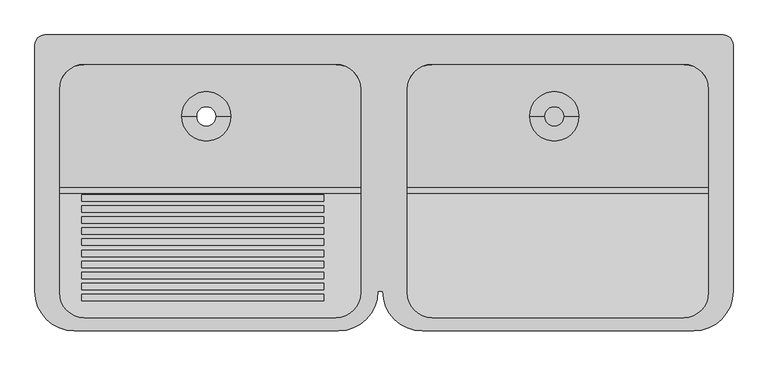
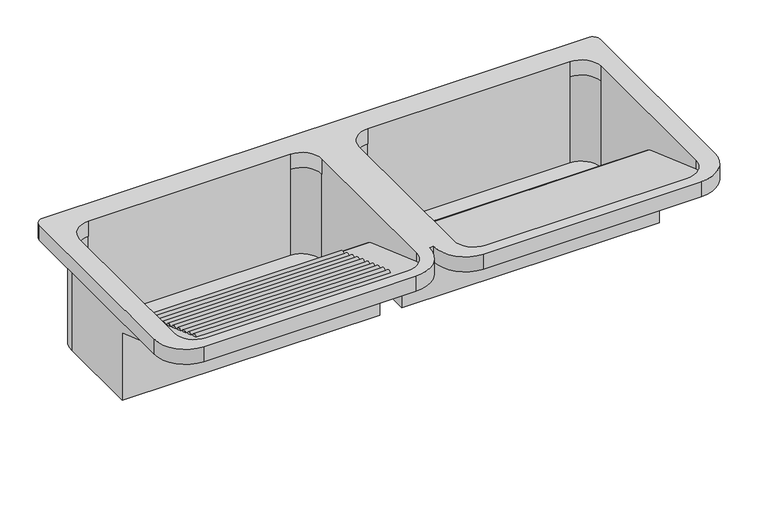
"""IFC4 building model written with IfcOpenShell, lengths in millimetres: proxy geometry, Tanque 2 cubas retangulares : Tanque 2 cubas retangulares."""

from ifc_helpers import new_model, si_unit, point, frame, frame_2d, origin, place, context, project, spatial, polyline, circle_curve, ellipse_curve, trimmed, segment, composite_curve, outline, extrude, source, transform, mapped, element, save
from ifc_brep_helpers import plane_surface, cylinder_surface, revolved_surface, advanced_brep


def generic_models_a6553102(model_context):
    return source(origin(), model_context, "Body", "SolidModel", [
        advanced_brep(
        [(-707.5265008, -20.0, 940.0), (-707.5265008, -520.0, 940.0), (-627.5265008, -600.0, 940.0), (-92.4734992, -600.0, 940.0), (-12.4734992, -520.0, 940.0), (-2.4734992, -520.0, 940.0), (77.5265008, -600.0, 940.0), (627.5265008, -600.0, 940.0), (707.5265008, -520.0, 940.0), (707.5265008, -20.0, 940.0), (687.5265008, 0.0, 940.0), (-687.5265008, 0.0, 940.0), (-657.5265008, -110.0, 940.0), (-607.5265008, -60.0, 940.0), (-97.5265008, -60.0, 940.0), (-47.5265008, -110.0, 940.0), (-47.5265008, -523.0, 940.0), (-97.5265008, -573.0, 940.0), (-607.5265008, -573.0, 940.0), (-657.5265008, -523.0, 940.0), (657.5265008, -110.0, 940.0), (657.5265008, -523.0, 940.0), (607.5265008, -573.0, 940.0), (97.5265008, -573.0, 940.0), (47.5265008, -523.0, 940.0), (47.5265008, -110.0, 940.0), (97.5265008, -60.0, 940.0), (607.5265008, -60.0, 940.0), (-707.5265008, -20.0, 900.0), (-687.5265008, 0.0, 900.0), (687.5265008, 0.0, 900.0), (707.5265008, -20.0, 900.0), (707.5265008, -520.0, 900.0), (627.5265008, -600.0, 900.0), (77.5265008, -600.0, 900.0), (-2.4734992, -520.0, 900.0), (-12.4734992, -520.0, 900.0), (-92.4734992, -600.0, 900.0), (-627.5265008, -600.0, 900.0), (-707.5265008, -520.0, 900.0), (-607.5265008, -573.0, 900.0), (-97.5265008, -573.0, 900.0), (-47.7046441, -527.2169414, 900.0), (-27.5265008, -527.2169414, 900.0), (-27.5265008, -110.0, 900.0), (-97.5265008, -40.0, 900.0), (-607.5265008, -40.0, 900.0), (-677.5265008, -110.0, 900.0), (-677.5265008, -527.2169414, 900.0), (-657.3483575, -527.2169414, 900.0), (97.5265008, -573.0, 900.0), (607.5265008, -573.0, 900.0), (657.3483575, -527.2169414, 900.0), (677.5265008, -527.2169414, 900.0), (677.5265008, -110.0, 900.0), (607.5265008, -40.0, 900.0), (97.5265008, -40.0, 900.0), (27.5265008, -110.0, 900.0), (27.5265008, -527.2169414, 900.0), (47.7046441, -527.2169414, 900.0), (-657.5265008, -110.0, 900.0), (-607.5265008, -60.0, 900.0), (-607.5265008, -60.0, 670.0), (-97.5265008, -60.0, 670.0), (-97.5265008, -60.0, 900.0), (-97.5265008, -573.0, 935.0), (-607.5265008, -573.0, 935.0), (-607.5265008, -573.0, 916.2603695), (-97.5265008, -573.0, 916.2603695), (-657.5265008, -523.0, 917.2419363), (-657.5265008, -321.714464, 845.7531088), (-657.5265008, -310.0, 830.3091491), (-657.5265008, -310.0, 670.0), (-657.5265008, -110.0, 670.0), (-47.5265008, -110.0, 900.0), (-47.5265008, -110.0, 670.0), (-47.5265008, -310.0, 670.0), (-47.5265008, -310.0, 830.3091491), (-47.5265008, -321.714464, 845.7531088), (-47.5265008, -523.0, 917.2419363), (657.5265008, -110.0, 900.0), (657.5265008, -110.0, 670.0), (657.5265008, -310.0, 670.0), (657.5265008, -310.0, 830.3091491), (657.5265008, -321.714464, 845.7531088), (657.5265008, -523.0, 917.2419363), (607.5265008, -573.0, 935.0), (607.5265008, -573.0, 916.2603695), (97.5265008, -573.0, 935.0), (97.5265008, -573.0, 916.2603695), (47.5265008, -523.0, 917.2419363), (47.5265008, -321.714464, 845.7531088), (47.5265008, -310.0, 830.3091491), (47.5265008, -310.0, 670.0), (47.5265008, -110.0, 670.0), (47.5265008, -110.0, 900.0), (97.5265008, -60.0, 900.0), (97.5265008, -60.0, 670.0), (607.5265008, -60.0, 670.0), (607.5265008, -60.0, 900.0), (-607.5265008, -40.0, 650.0), (-97.5265008, -40.0, 650.0), (-27.5265008, -110.0, 650.0), (-27.5265008, -330.0, 650.0), (-677.5265008, -330.0, 650.0), (-677.5265008, -110.0, 650.0), (-384.7814845, -164.9171364, 650.0), (-335.2185155, -164.9171364, 650.0), (-677.5265008, -330.0, 829.9561797), (-27.5265008, -330.0, 829.9561797), (-335.2185155, -164.9171364, 670.0), (-384.7814845, -164.9171364, 670.0), (97.5265008, -40.0, 650.0), (607.5265008, -40.0, 650.0), (677.5265008, -110.0, 650.0), (677.5265008, -330.0, 650.0), (27.5265008, -330.0, 650.0), (27.5265008, -110.0, 650.0), (27.5265008, -330.0, 829.9561797), (677.5265008, -330.0, 829.9561797)],
        [
            (0, 1),
            (1, 2, circle_curve(frame((-627.5265008, -520.0, 940.0), z_axis=(0.0, 0.0, 1.0), x_axis=(1.0, 0.0, 0.0)), 80.0)),
            (2, 3),
            (3, 4, circle_curve(frame((-92.4734992, -520.0, 940.0), z_axis=(0.0, 0.0, 1.0), x_axis=(-1.0, 0.0, 0.0)), 80.0)),
            (4, 5),
            (5, 6, circle_curve(frame((77.5265008, -520.0, 940.0), z_axis=(0.0, 0.0, 1.0), x_axis=(1.0, 0.0, 0.0)), 80.0)),
            (6, 7),
            (7, 8, circle_curve(frame((627.5265008, -520.0, 940.0), z_axis=(0.0, 0.0, 1.0), x_axis=(-1.0, 0.0, 0.0)), 80.0)),
            (8, 9),
            (9, 10, circle_curve(frame((687.5265008, -20.0, 940.0), z_axis=(0.0, 0.0, 1.0), x_axis=(-1.0, 0.0, 0.0)), 20.0)),
            (10, 11),
            (11, 0, circle_curve(frame((-687.5265008, -20.0, 940.0), z_axis=(0.0, 0.0, 1.0), x_axis=(1.0, 0.0, 0.0)), 20.0)),
            (12, 13, circle_curve(frame((-607.5265008, -110.0, 940.0), z_axis=(0.0, 0.0, -1.0), x_axis=(1.0, 0.0, 0.0)), 50.0)),
            (13, 14),
            (14, 15, circle_curve(frame((-97.5265008, -110.0, 940.0), z_axis=(0.0, 0.0, -1.0), x_axis=(1.0, 0.0, 0.0)), 50.0)),
            (15, 16),
            (16, 17, circle_curve(frame((-97.5265008, -523.0, 940.0), z_axis=(0.0, 0.0, -1.0), x_axis=(1.0, 0.0, 0.0)), 50.0)),
            (17, 18),
            (18, 19, circle_curve(frame((-607.5265008, -523.0, 940.0), z_axis=(0.0, 0.0, -1.0), x_axis=(1.0, 0.0, 0.0)), 50.0)),
            (19, 12),
            (20, 21),
            (21, 22, circle_curve(frame((607.5265008, -523.0, 940.0), z_axis=(0.0, 0.0, -1.0), x_axis=(-1.0, 0.0, 0.0)), 50.0)),
            (22, 23),
            (23, 24, circle_curve(frame((97.5265008, -523.0, 940.0), z_axis=(0.0, 0.0, -1.0), x_axis=(-1.0, 0.0, 0.0)), 50.0)),
            (24, 25),
            (25, 26, circle_curve(frame((97.5265008, -110.0, 940.0), z_axis=(0.0, 0.0, -1.0), x_axis=(-1.0, 0.0, 0.0)), 50.0)),
            (26, 27),
            (27, 20, circle_curve(frame((607.5265008, -110.0, 940.0), z_axis=(0.0, 0.0, -1.0), x_axis=(-1.0, 0.0, 0.0)), 50.0)),
            (28, 29, circle_curve(frame((-687.5265008, -20.0, 900.0), z_axis=(0.0, 0.0, -1.0), x_axis=(1.0, 0.0, 0.0)), 20.0)),
            (29, 30),
            (30, 31, circle_curve(frame((687.5265008, -20.0, 900.0), z_axis=(0.0, 0.0, -1.0), x_axis=(-1.0, 0.0, 0.0)), 20.0)),
            (31, 32),
            (32, 33, circle_curve(frame((627.5265008, -520.0, 900.0), z_axis=(0.0, 0.0, -1.0), x_axis=(-1.0, 0.0, 0.0)), 80.0)),
            (33, 34),
            (34, 35, circle_curve(frame((77.5265008, -520.0, 900.0), z_axis=(0.0, 0.0, -1.0), x_axis=(1.0, 0.0, 0.0)), 80.0)),
            (35, 36),
            (36, 37, circle_curve(frame((-92.4734992, -520.0, 900.0), z_axis=(0.0, 0.0, -1.0), x_axis=(-1.0, 0.0, 0.0)), 80.0)),
            (37, 38),
            (38, 39, circle_curve(frame((-627.5265008, -520.0, 900.0), z_axis=(0.0, 0.0, -1.0), x_axis=(1.0, 0.0, 0.0)), 80.0)),
            (39, 28),
            (40, 41),
            (41, 42, circle_curve(frame((-97.5265008, -523.0, 900.0), z_axis=(0.0, 0.0, 1.0), x_axis=(1.0, 0.0, 0.0)), 50.0)),
            (42, 43),
            (43, 44),
            (44, 45, circle_curve(frame((-97.5265008, -110.0, 900.0), z_axis=(0.0, 0.0, 1.0), x_axis=(1.0, 0.0, 0.0)), 70.0)),
            (45, 46),
            (46, 47, circle_curve(frame((-607.5265008, -110.0, 900.0), z_axis=(0.0, 0.0, 1.0), x_axis=(1.0, 0.0, 0.0)), 70.0)),
            (47, 48),
            (48, 49),
            (49, 40, circle_curve(frame((-607.5265008, -523.0, 900.0), z_axis=(0.0, 0.0, 1.0), x_axis=(1.0, 0.0, 0.0)), 50.0)),
            (50, 51),
            (51, 52, circle_curve(frame((607.5265008, -523.0, 900.0), z_axis=(0.0, 0.0, 1.0), x_axis=(-1.0, 0.0, 0.0)), 50.0)),
            (52, 53),
            (53, 54),
            (54, 55, circle_curve(frame((607.5265008, -110.0, 900.0), z_axis=(0.0, 0.0, 1.0), x_axis=(1.0, 0.0, 0.0)), 70.0)),
            (55, 56),
            (56, 57, circle_curve(frame((97.5265008, -110.0, 900.0), z_axis=(0.0, 0.0, 1.0), x_axis=(1.0, 0.0, 0.0)), 70.0)),
            (57, 58),
            (58, 59),
            (59, 50, circle_curve(frame((97.5265008, -523.0, 900.0), z_axis=(0.0, 0.0, 1.0), x_axis=(-1.0, 0.0, 0.0)), 50.0)),
            (0, 28),
            (39, 1),
            (38, 2),
            (37, 3),
            (10, 30),
            (29, 11),
            (12, 60),
            (60, 61, circle_curve(frame((-607.5265008, -110.0, 900.0), z_axis=(0.0, 0.0, -1.0), x_axis=(1.0, 0.0, 0.0)), 50.0)),
            (61, 13),
            (61, 62),
            (62, 63),
            (63, 64),
            (64, 14),
            (17, 65),
            (65, 66),
            (66, 18),
            (40, 67),
            (67, 68),
            (68, 41),
            (66, 69, ellipse_curve(frame((-607.5265008, -523.0, 917.2419363), z_axis=(0.0, -0.33467980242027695, -0.9423319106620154), x_axis=(0.0, 0.9423319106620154, -0.3346798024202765)), 53.0598608, 50.0)),
            (69, 19),
            (49, 67, ellipse_curve(frame((-607.5265008, -523.0, 898.5023057), z_axis=(0.0, 0.3346798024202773, 0.9423319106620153), x_axis=(0.0, 0.9423319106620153, -0.33467980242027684)), 53.0598608, 50.0)),
            (69, 70),
            (70, 71, circle_curve(frame((-657.5265008, -329.2320935, 827.8861055), z_axis=(-1.0, 0.0, 0.0), x_axis=(0.0, 1.0, 0.0)), 19.3841316)),
            (71, 72),
            (72, 73),
            (73, 60),
            (64, 74, circle_curve(frame((-97.5265008, -110.0, 900.0), z_axis=(0.0, 0.0, -1.0), x_axis=(1.0, 0.0, 0.0)), 50.0)),
            (74, 15),
            (74, 75),
            (75, 76),
            (76, 77),
            (77, 78, circle_curve(frame((-47.5265008, -329.2320935, 827.8861055), z_axis=(1.0, 0.0, 0.0), x_axis=(0.0, 1.0, 0.0)), 19.3841316)),
            (78, 79),
            (79, 16),
            (79, 65, ellipse_curve(frame((-97.5265008, -523.0, 917.2419363), z_axis=(0.0, -0.33467980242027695, -0.9423319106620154), x_axis=(0.0, 0.9423319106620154, -0.3346798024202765)), 53.0598608, 50.0)),
            (68, 42, ellipse_curve(frame((-97.5265008, -523.0, 898.5023057), z_axis=(0.0, 0.3346798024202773, 0.9423319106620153), x_axis=(0.0, 0.9423319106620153, -0.33467980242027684)), 53.0598608, 50.0)),
            (36, 4),
            (35, 5),
            (34, 6),
            (33, 7),
            (32, 8),
            (31, 9),
            (20, 80),
            (80, 81),
            (81, 82),
            (82, 83),
            (83, 84, circle_curve(frame((657.5265008, -329.2320935, 827.8861055), z_axis=(1.0, 0.0, 0.0), x_axis=(0.0, 1.0, 0.0)), 19.3841316)),
            (84, 85),
            (85, 21),
            (85, 86, ellipse_curve(frame((607.5265008, -523.0, 917.2419363), z_axis=(0.0, -0.33467980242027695, -0.9423319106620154), x_axis=(0.0, 0.9423319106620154, -0.3346798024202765)), 53.0598608, 50.0)),
            (86, 22),
            (51, 87),
            (87, 52, ellipse_curve(frame((607.5265008, -523.0, 898.5023057), z_axis=(0.0, 0.3346798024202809, 0.9423319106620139), x_axis=(0.0, 0.942331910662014, -0.3346798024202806)), 53.0598608, 50.0)),
            (86, 88),
            (88, 23),
            (50, 89),
            (89, 87),
            (88, 90, ellipse_curve(frame((97.5265008, -523.0, 917.2419363), z_axis=(0.0, -0.33467980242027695, -0.9423319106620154), x_axis=(0.0, 0.9423319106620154, -0.3346798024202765)), 53.0598608, 50.0)),
            (90, 24),
            (59, 89, ellipse_curve(frame((97.5265008, -523.0, 898.5023057), z_axis=(0.0, 0.3346798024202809, 0.9423319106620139), x_axis=(0.0, 0.942331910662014, -0.3346798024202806)), 53.0598608, 50.0)),
            (90, 91),
            (91, 92, circle_curve(frame((47.5265008, -329.2320935, 827.8861055), z_axis=(-1.0, 0.0, 0.0), x_axis=(0.0, 1.0, 0.0)), 19.3841316)),
            (92, 93),
            (93, 94),
            (94, 95),
            (95, 25),
            (95, 96, circle_curve(frame((97.5265008, -110.0, 900.0), z_axis=(0.0, 0.0, -1.0), x_axis=(-1.0, 0.0, 0.0)), 50.0)),
            (96, 26),
            (96, 97),
            (97, 98),
            (98, 99),
            (99, 27),
            (99, 80, circle_curve(frame((607.5265008, -110.0, 900.0), z_axis=(0.0, 0.0, -1.0), x_axis=(-1.0, 0.0, 0.0)), 50.0)),
            (100, 101),
            (101, 102, circle_curve(frame((-97.5265008, -110.0, 650.0), z_axis=(0.0, 0.0, -1.0), x_axis=(1.0, 0.0, 0.0)), 70.0)),
            (102, 103),
            (103, 104),
            (104, 105),
            (105, 100, circle_curve(frame((-607.5265008, -110.0, 650.0), z_axis=(0.0, 0.0, -1.0), x_axis=(1.0, 0.0, 0.0)), 70.0)),
            (106, 107, circle_curve(frame((-360.0, -164.9171364, 650.0), z_axis=(0.0, 0.0, 1.0), x_axis=(1.0, 0.0, 0.0)), 24.7814845)),
            (107, 106, circle_curve(frame((-360.0, -164.9171364, 650.0), z_axis=(0.0, 0.0, 1.0), x_axis=(1.0, 0.0, 0.0)), 24.7814845)),
            (105, 47),
            (46, 100),
            (104, 108),
            (108, 48),
            (103, 109),
            (109, 108),
            (45, 101),
            (102, 44),
            (43, 109),
            (62, 73, circle_curve(frame((-607.5265008, -110.0, 670.0), z_axis=(0.0, 0.0, 1.0), x_axis=(1.0, 0.0, 0.0)), 50.0)),
            (72, 76),
            (75, 63, circle_curve(frame((-97.5265008, -110.0, 670.0), z_axis=(0.0, 0.0, 1.0), x_axis=(1.0, 0.0, 0.0)), 50.0)),
            (110, 111, circle_curve(frame((-360.0, -164.9171364, 670.0), z_axis=(0.0, 0.0, -1.0), x_axis=(1.0, 0.0, 0.0)), 24.7814845)),
            (111, 110, circle_curve(frame((-360.0, -164.9171364, 670.0), z_axis=(0.0, 0.0, -1.0), x_axis=(1.0, 0.0, 0.0)), 24.7814845)),
            (78, 70),
            (71, 77),
            (106, 111),
            (110, 107),
            (84, 91),
            (92, 83),
            (82, 93),
            (112, 113),
            (113, 114, circle_curve(frame((607.5265008, -110.0, 650.0), z_axis=(0.0, 0.0, -1.0), x_axis=(1.0, 0.0, 0.0)), 70.0)),
            (114, 115),
            (115, 116),
            (116, 117),
            (117, 112, circle_curve(frame((97.5265008, -110.0, 650.0), z_axis=(0.0, 0.0, -1.0), x_axis=(1.0, 0.0, 0.0)), 70.0)),
            (117, 57),
            (56, 112),
            (116, 118),
            (118, 58),
            (115, 119),
            (119, 118),
            (55, 113),
            (114, 54),
            (53, 119),
            (97, 94, circle_curve(frame((97.5265008, -110.0, 670.0), z_axis=(0.0, 0.0, 1.0), x_axis=(1.0, 0.0, 0.0)), 50.0)),
            (81, 98, circle_curve(frame((607.5265008, -110.0, 670.0), z_axis=(0.0, 0.0, 1.0), x_axis=(1.0, 0.0, 0.0)), 50.0)),
        ],
        [
            plane_surface(frame((-707.5265008, -20.0, 940.0), z_axis=(0.0, 0.0, 1.0), x_axis=(0.0, -1.0, 0.0))),
            plane_surface(frame((-707.5265008, -20.0, 900.0), z_axis=(0.0, 0.0, -1.0), x_axis=(0.0, 1.0, 0.0))),
            plane_surface(frame((-707.5265008, -20.0, 940.0), z_axis=(-1.0, 0.0, 0.0), x_axis=(0.0, 0.0, -1.0))),
            cylinder_surface(frame((-627.5265008, -520.0, 900.0), z_axis=(0.0, 0.0, 1.0), x_axis=(1.0, 0.0, 0.0)), 80.0),
            plane_surface(frame((-627.5265008, -600.0, 940.0), z_axis=(0.0, -1.0, 0.0), x_axis=(0.0, 0.0, -1.0))),
            plane_surface(frame((687.5265008, 0.0, 940.0), z_axis=(0.0, 1.0, 0.0), x_axis=(0.0, 0.0, -1.0))),
            cylinder_surface(frame((-687.5265008, -20.0, 900.0), z_axis=(0.0, 0.0, 1.0), x_axis=(1.0, 0.0, 0.0)), 20.0),
            revolved_surface(polyline([(-557.5265008, -110.0, 900.0), (-557.5265008, -110.0, 940.0)]), (-607.5265008, -110.0, 0.0), (0.0, 0.0, -1.0)),
            plane_surface(frame((-607.5265008, -60.0, 940.0), z_axis=(0.0, -1.0, 0.0), x_axis=(0.0, 0.0, -1.0))),
            plane_surface(frame((-97.5265008, -573.0, 940.0), z_axis=(0.0, 1.0, 0.0), x_axis=(0.0, 0.0, -1.0))),
            revolved_surface(polyline([(-557.5265008, -523.0, 899.4838725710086), (-557.5265008, -523.0, 940.0)]), (-607.5265008, -523.0, 0.0), (0.0, 0.0, -1.0)),
            revolved_surface(polyline([(-557.5265008, -523.0, 880.7442419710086), (-557.5265008, -523.0, 916.2603695)]), (-607.5265008, -523.0, 0.0), (0.0, 0.0, -1.0)),
            plane_surface(frame((-657.5265008, -523.0, 940.0), z_axis=(1.0, 0.0, 0.0), x_axis=(0.0, 0.0, -1.0))),
            revolved_surface(polyline([(-47.526500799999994, -110.0, 900.0), (-47.526500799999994, -110.0, 940.0)]), (-97.5265008, -110.0, 0.0), (0.0, 0.0, -1.0)),
            plane_surface(frame((-47.5265008, -110.0, 940.0), z_axis=(-1.0, 0.0, 0.0), x_axis=(0.0, 0.0, -1.0))),
            revolved_surface(polyline([(-47.526500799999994, -523.0, 899.4838725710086), (-47.526500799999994, -523.0, 940.0)]), (-97.5265008, -523.0, 0.0), (0.0, 0.0, -1.0)),
            revolved_surface(polyline([(-47.526500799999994, -523.0, 880.7442419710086), (-47.526500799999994, -523.0, 916.2603695)]), (-97.5265008, -523.0, 0.0), (0.0, 0.0, -1.0)),
            cylinder_surface(frame((-92.4734992, -520.0, 900.0), z_axis=(0.0, 0.0, 1.0), x_axis=(-1.0, 0.0, 0.0)), 80.0),
            plane_surface(frame((-12.4734992, -520.0, 940.0), z_axis=(0.0, -1.0, 0.0), x_axis=(0.0, 0.0, -1.0))),
            cylinder_surface(frame((77.5265008, -520.0, 900.0), z_axis=(0.0, 0.0, 1.0), x_axis=(1.0, 0.0, 0.0)), 80.0),
            plane_surface(frame((77.5265008, -600.0, 940.0), z_axis=(0.0, -1.0, 0.0), x_axis=(0.0, 0.0, -1.0))),
            cylinder_surface(frame((627.5265008, -520.0, 900.0), z_axis=(0.0, 0.0, 1.0), x_axis=(-1.0, 0.0, 0.0)), 80.0),
            plane_surface(frame((707.5265008, -520.0, 940.0), z_axis=(1.0, 0.0, 0.0), x_axis=(0.0, 0.0, -1.0))),
            cylinder_surface(frame((687.5265008, -20.0, 900.0), z_axis=(0.0, 0.0, 1.0), x_axis=(-1.0, 0.0, 0.0)), 20.0),
            plane_surface(frame((657.5265008, -110.0, 940.0), z_axis=(-1.0, 0.0, 0.0), x_axis=(0.0, 0.0, -1.0))),
            revolved_surface(polyline([(557.5265008, -523.0, 899.4838725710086), (557.5265008, -523.0, 940.0)]), (607.5265008, -523.0, 0.0), (0.0, 0.0, -1.0)),
            revolved_surface(polyline([(557.5265008, -523.0, 880.7442419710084), (557.5265008, -523.0, 916.2603695)]), (607.5265008, -523.0, 0.0), (0.0, 0.0, -1.0)),
            plane_surface(frame((607.5265008, -573.0, 940.0), z_axis=(0.0, 1.0, 0.0), x_axis=(0.0, 0.0, -1.0))),
            revolved_surface(polyline([(47.526500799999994, -523.0, 899.4838725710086), (47.526500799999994, -523.0, 940.0)]), (97.5265008, -523.0, 0.0), (0.0, 0.0, -1.0)),
            revolved_surface(polyline([(47.526500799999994, -523.0, 880.7442419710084), (47.526500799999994, -523.0, 916.2603695)]), (97.5265008, -523.0, 0.0), (0.0, 0.0, -1.0)),
            plane_surface(frame((47.5265008, -523.0, 940.0), z_axis=(1.0, 0.0, 0.0), x_axis=(0.0, 0.0, -1.0))),
            revolved_surface(polyline([(47.526500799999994, -110.0, 900.0), (47.526500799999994, -110.0, 940.0)]), (97.5265008, -110.0, 0.0), (0.0, 0.0, -1.0)),
            plane_surface(frame((97.5265008, -60.0, 940.0), z_axis=(0.0, -1.0, 0.0), x_axis=(0.0, 0.0, -1.0))),
            revolved_surface(polyline([(557.5265008, -110.0, 900.0), (557.5265008, -110.0, 940.0)]), (607.5265008, -110.0, 0.0), (0.0, 0.0, -1.0)),
            plane_surface(frame((-537.5265008, -110.0, 650.0), z_axis=(0.0, 0.0, -1.0), x_axis=(0.0, -1.0, 0.0))),
            cylinder_surface(frame((-607.5265008, -110.0, 650.0), z_axis=(0.0, 0.0, 1.0), x_axis=(1.0, 0.0, 0.0)), 70.0),
            plane_surface(frame((-677.5265008, -110.0, 900.0), z_axis=(-1.0, 0.0, 0.0), x_axis=(0.0, 0.0, -1.0))),
            plane_surface(frame((-677.5265008, -330.0, 900.0), z_axis=(0.0, -1.0, 0.0), x_axis=(0.0, 0.0, -1.0))),
            plane_surface(frame((-97.5265008, -40.0, 900.0), z_axis=(0.0, 1.0, 0.0), x_axis=(0.0, 0.0, -1.0))),
            plane_surface(frame((-27.5265008, -330.0, 900.0), z_axis=(1.0, 0.0, 0.0), x_axis=(0.0, 0.0, -1.0))),
            cylinder_surface(frame((-97.5265008, -110.0, 650.0), z_axis=(0.0, 0.0, 1.0), x_axis=(1.0, 0.0, 0.0)), 70.0),
            plane_surface(frame((-557.5265008, -110.0, 670.0), z_axis=(0.0, 0.0, 1.0), x_axis=(0.0, -1.0, 0.0))),
            revolved_surface(polyline([(-557.5265008, -110.0, 900.0), (-557.5265008, -110.0, 670.0)]), (-607.5265008, -110.0, 670.0), (0.0, 0.0, 1.0)),
            revolved_surface(polyline([(-47.526500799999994, -110.0, 900.0), (-47.526500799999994, -110.0, 670.0)]), (-97.5265008, -110.0, 670.0), (0.0, 0.0, 1.0)),
            plane_surface(frame((-47.5265008, -573.0, 916.2603695), z_axis=(0.0, -0.3346798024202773, -0.9423319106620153), x_axis=(-1.0, 0.0, 0.0))),
            plane_surface(frame((-47.5265008, -321.714464, 845.7531088), z_axis=(0.0, 0.33467980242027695, 0.9423319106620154), x_axis=(-1.0, 0.0, 0.0))),
            plane_surface(frame((-47.5265008, -310.0, 670.0), z_axis=(0.0, 1.0, 0.0), x_axis=(-1.0, 0.0, 0.0))),
            cylinder_surface(frame((-657.5265008, -329.2320935, 827.8861055), z_axis=(1.0, 0.0, 0.0), x_axis=(0.0, 1.0, 0.0)), 19.3841316),
            revolved_surface(polyline([(-335.2185155, -164.9171364, 670.0), (-335.2185155, -164.9171364, 650.0)]), (-360.0, -164.9171364, 650.0), (0.0, 0.0, 1.0)),
            plane_surface(frame((657.5265008, -321.714464, 845.7531088), z_axis=(0.0, 0.33467980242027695, 0.9423319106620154), x_axis=(-1.0, 0.0, 0.0))),
            plane_surface(frame((657.5265008, -310.0, 670.0), z_axis=(0.0, 1.0, 0.0), x_axis=(-1.0, 0.0, 0.0))),
            cylinder_surface(frame((47.5265008, -329.2320935, 827.8861055), z_axis=(1.0, 0.0, 0.0), x_axis=(0.0, 1.0, 0.0)), 19.3841316),
            plane_surface(frame((167.5265008, -110.0, 650.0), z_axis=(0.0, 0.0, -1.0), x_axis=(0.0, -1.0, 0.0))),
            cylinder_surface(frame((97.5265008, -110.0, 650.0), z_axis=(0.0, 0.0, 1.0), x_axis=(1.0, 0.0, 0.0)), 70.0),
            plane_surface(frame((27.5265008, -110.0, 900.0), z_axis=(-1.0, 0.0, 0.0), x_axis=(0.0, 0.0, -1.0))),
            plane_surface(frame((27.5265008, -330.0, 900.0), z_axis=(0.0, -1.0, 0.0), x_axis=(0.0, 0.0, -1.0))),
            plane_surface(frame((607.5265008, -40.0, 900.0), z_axis=(0.0, 1.0, 0.0), x_axis=(0.0, 0.0, -1.0))),
            plane_surface(frame((677.5265008, -330.0, 900.0), z_axis=(1.0, 0.0, 0.0), x_axis=(0.0, 0.0, -1.0))),
            cylinder_surface(frame((607.5265008, -110.0, 650.0), z_axis=(0.0, 0.0, 1.0), x_axis=(1.0, 0.0, 0.0)), 70.0),
            plane_surface(frame((47.5265008, -527.2169414, 900.0), z_axis=(0.0, -0.3346798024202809, -0.9423319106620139), x_axis=(-1.0, 0.0, 0.0))),
            plane_surface(frame((147.5265008, -110.0, 670.0), z_axis=(0.0, 0.0, 1.0), x_axis=(0.0, -1.0, 0.0))),
            revolved_surface(polyline([(147.5265008, -110.0, 900.0), (147.5265008, -110.0, 670.0)]), (97.5265008, -110.0, 670.0), (0.0, 0.0, 1.0)),
            revolved_surface(polyline([(657.5265008, -110.0, 900.0), (657.5265008, -110.0, 670.0)]), (607.5265008, -110.0, 670.0), (0.0, 0.0, 1.0)),
        ],
        [
            (0, [[1, 2, 3, 4, 5, 6, 7, 8, 9, 10, 11, 12], [13, 14, 15, 16, 17, 18, 19, 20], [21, 22, 23, 24, 25, 26, 27, 28]]),
            (1, [[29, 30, 31, 32, 33, 34, 35, 36, 37, 38, 39, 40], [41, 42, 43, 44, 45, 46, 47, 48, 49, 50], [51, 52, 53, 54, 55, 56, 57, 58, 59, 60]]),
            (2, [[-1, 61, -40, 62]]),
            (3, [[-2, -62, -39, 63]]),
            (4, [[-3, -63, -38, 64]]),
            (5, [[-11, 65, -30, 66]]),
            (6, [[-12, -66, -29, -61]]),
            (7, [[-13, 67, 68, 69]]),
            (8, [[-14, -69, 70, 71, 72, 73]]),
            (9, [[-18, 74, 75, 76]]),
            (9, [[-41, 77, 78, 79]]),
            (10, [[-19, -76, 80, 81]]),
            (11, [[-50, 82, -77]]),
            (12, [[-20, -81, 83, 84, 85, 86, 87, -67]]),
            (13, [[-15, -73, 88, 89]]),
            (14, [[-16, -89, 90, 91, 92, 93, 94, 95]]),
            (15, [[-17, -95, 96, -74]]),
            (16, [[-42, -79, 97]]),
            (17, [[-4, -64, -37, 98]]),
            (18, [[-5, -98, -36, 99]]),
            (19, [[-6, -99, -35, 100]]),
            (20, [[-7, -100, -34, 101]]),
            (21, [[-8, -101, -33, 102]]),
            (22, [[-9, -102, -32, 103]]),
            (23, [[-10, -103, -31, -65]]),
            (24, [[-21, 104, 105, 106, 107, 108, 109, 110]]),
            (25, [[-22, -110, 111, 112]]),
            (26, [[-52, 113, 114]]),
            (27, [[-23, -112, 115, 116]]),
            (27, [[-51, 117, 118, -113]]),
            (28, [[-24, -116, 119, 120]]),
            (29, [[-60, 121, -117]]),
            (30, [[-25, -120, 122, 123, 124, 125, 126, 127]]),
            (31, [[-26, -127, 128, 129]]),
            (32, [[-27, -129, 130, 131, 132, 133]]),
            (33, [[-28, -133, 134, -104]]),
            (34, [[135, 136, 137, 138, 139, 140], [141, 142]]),
            (35, [[-140, 143, -47, 144]]),
            (36, [[-139, 145, 146, -48, -143]]),
            (37, [[-138, 147, 148, -145]]),
            (38, [[-135, -144, -46, 149]]),
            (39, [[-137, 150, -44, 151, -147]]),
            (40, [[-136, -149, -45, -150]]),
            (41, [[152, -86, 153, -91, 154, -71], [155, 156]]),
            (42, [[-152, -70, -68, -87]]),
            (43, [[-154, -90, -88, -72]]),
            (44, [[-146, -148, -151, -43, -97, -78, -82, -49]]),
            (45, [[157, -83, -80, -75, -96, -94]]),
            (46, [[158, -92, -153, -85]]),
            (47, [[-157, -93, -158, -84]]),
            (48, [[-141, 159, -155, 160]]),
            (48, [[-142, -160, -156, -159]]),
            (49, [[161, -122, -119, -115, -111, -109]]),
            (50, [[162, -107, 163, -124]]),
            (51, [[-161, -108, -162, -123]]),
            (52, [[164, 165, 166, 167, 168, 169]]),
            (53, [[-169, 170, -57, 171]]),
            (54, [[-168, 172, 173, -58, -170]]),
            (55, [[-167, 174, 175, -172]]),
            (56, [[-164, -171, -56, 176]]),
            (57, [[-166, 177, -54, 178, -174]]),
            (58, [[-165, -176, -55, -177]]),
            (59, [[-173, -175, -178, -53, -114, -118, -121, -59]]),
            (60, [[179, -125, -163, -106, 180, -131]]),
            (61, [[-179, -130, -128, -126]]),
            (62, [[-180, -105, -134, -132]]),
        ],
    ),
        advanced_brep(
        [(295.2715171, -164.9171364, 670.0), (394.8344862, -164.9171364, 670.0), (369.8344862, -164.9171364, 670.0), (320.2715171, -164.9171364, 670.0), (369.8344862, -164.9171364, 632.6678395), (320.2715171, -164.9171364, 632.6678395), (374.8344862, -164.9171364, 624.0075855), (315.2715171, -164.9171364, 624.0075855), (374.8344862, -164.9171364, 606.7045547), (315.2715171, -164.9171364, 606.7045547), (369.8344862, -164.9171364, 606.7045547), (320.2715171, -164.9171364, 606.7045547), (369.8344862, -164.9171364, 622.6678395), (320.2715171, -164.9171364, 622.6678395), (364.8344862, -164.9171364, 631.3280936), (325.2715171, -164.9171364, 631.3280936), (364.8344862, -164.9171364, 675.0), (325.2715171, -164.9171364, 675.0), (394.8344862, -164.9171364, 675.0), (295.2715171, -164.9171364, 675.0)],
        [
            (0, 1, circle_curve(frame((345.0530016, -164.9171364, 670.0), z_axis=(0.0, 0.0, -1.0), x_axis=(1.0, 0.0, 0.0)), 49.7814845)),
            (1, 2),
            (2, 3, circle_curve(frame((345.0530016, -164.9171364, 670.0), z_axis=(0.0, 0.0, 1.0), x_axis=(1.0, 0.0, 0.0)), 24.7814845)),
            (3, 0),
            (1, 0, circle_curve(frame((345.0530016, -164.9171364, 670.0), z_axis=(0.0, 0.0, -1.0), x_axis=(1.0, 0.0, 0.0)), 49.7814845)),
            (3, 2, circle_curve(frame((345.0530016, -164.9171364, 670.0), z_axis=(0.0, 0.0, 1.0), x_axis=(1.0, 0.0, 0.0)), 24.7814845)),
            (2, 4),
            (4, 5, circle_curve(frame((345.0530016, -164.9171364, 632.6678395), z_axis=(0.0, 0.0, 1.0), x_axis=(1.0, 0.0, 0.0)), 24.7814845)),
            (5, 3),
            (5, 4, circle_curve(frame((345.0530016, -164.9171364, 632.6678395), z_axis=(0.0, 0.0, 1.0), x_axis=(1.0, 0.0, 0.0)), 24.7814845)),
            (4, 6),
            (6, 7, circle_curve(frame((345.0530016, -164.9171364, 624.0075855), z_axis=(0.0, 0.0, 1.0), x_axis=(1.0, 0.0, 0.0)), 29.7814845)),
            (7, 5),
            (7, 6, circle_curve(frame((345.0530016, -164.9171364, 624.0075855), z_axis=(0.0, 0.0, 1.0), x_axis=(1.0, 0.0, 0.0)), 29.7814845)),
            (6, 8),
            (8, 9, circle_curve(frame((345.0530016, -164.9171364, 606.7045547), z_axis=(0.0, 0.0, 1.0), x_axis=(1.0, 0.0, 0.0)), 29.7814845)),
            (9, 7),
            (9, 8, circle_curve(frame((345.0530016, -164.9171364, 606.7045547), z_axis=(0.0, 0.0, 1.0), x_axis=(1.0, 0.0, 0.0)), 29.7814845)),
            (8, 10),
            (10, 11, circle_curve(frame((345.0530016, -164.9171364, 606.7045547), z_axis=(0.0, 0.0, 1.0), x_axis=(1.0, 0.0, 0.0)), 24.7814845)),
            (11, 9),
            (11, 10, circle_curve(frame((345.0530016, -164.9171364, 606.7045547), z_axis=(0.0, 0.0, 1.0), x_axis=(1.0, 0.0, 0.0)), 24.7814845)),
            (10, 12),
            (12, 13, circle_curve(frame((345.0530016, -164.9171364, 622.6678395), z_axis=(0.0, 0.0, 1.0), x_axis=(1.0, 0.0, 0.0)), 24.7814845)),
            (13, 11),
            (13, 12, circle_curve(frame((345.0530016, -164.9171364, 622.6678395), z_axis=(0.0, 0.0, 1.0), x_axis=(1.0, 0.0, 0.0)), 24.7814845)),
            (12, 14),
            (14, 15, circle_curve(frame((345.0530016, -164.9171364, 631.3280936), z_axis=(0.0, 0.0, 1.0), x_axis=(1.0, 0.0, 0.0)), 19.7814845)),
            (15, 13),
            (15, 14, circle_curve(frame((345.0530016, -164.9171364, 631.3280936), z_axis=(0.0, 0.0, 1.0), x_axis=(1.0, 0.0, 0.0)), 19.7814845)),
            (14, 16),
            (16, 17, circle_curve(frame((345.0530016, -164.9171364, 675.0), z_axis=(0.0, 0.0, 1.0), x_axis=(1.0, 0.0, 0.0)), 19.7814845)),
            (17, 15),
            (17, 16, circle_curve(frame((345.0530016, -164.9171364, 675.0), z_axis=(0.0, 0.0, 1.0), x_axis=(1.0, 0.0, 0.0)), 19.7814845)),
            (16, 18),
            (18, 19, circle_curve(frame((345.0530016, -164.9171364, 675.0), z_axis=(0.0, 0.0, 1.0), x_axis=(1.0, 0.0, 0.0)), 49.7814845)),
            (19, 17),
            (19, 18, circle_curve(frame((345.0530016, -164.9171364, 675.0), z_axis=(0.0, 0.0, 1.0), x_axis=(1.0, 0.0, 0.0)), 49.7814845)),
            (18, 1),
            (0, 19),
        ],
        [
            plane_surface(frame((345.0530016, -164.9171364, 670.0), z_axis=(0.0, 0.0, -1.0), x_axis=(1.0, 0.0, 0.0))),
            cylinder_surface(frame((345.0530016, -164.9171364, 670.0), z_axis=(0.0, 0.0, 1.0), x_axis=(1.0, 0.0, 0.0)), 24.7814845),
            revolved_surface(polyline([(374.8344862, -164.9171364, 624.0075855), (369.8344862, -164.9171364, 632.6678395)]), (345.0530016, -164.9171364, 670.0), (0.0, 0.0, 1.0)),
            cylinder_surface(frame((345.0530016, -164.9171364, 670.0), z_axis=(0.0, 0.0, 1.0), x_axis=(1.0, 0.0, 0.0)), 29.7814845),
            plane_surface(frame((345.0530016, -164.9171364, 606.7045547), z_axis=(0.0, 0.0, -1.0), x_axis=(1.0, 0.0, 0.0))),
            revolved_surface(polyline([(369.8344861, -164.9171364, 622.6678395), (369.8344861, -164.9171364, 606.7045547)]), (345.0530016, -164.9171364, 670.0), (0.0, 0.0, 1.0)),
            revolved_surface(polyline([(364.8344862, -164.9171364, 631.3280936), (369.8344862, -164.9171364, 622.6678395)]), (345.0530016, -164.9171364, 670.0), (0.0, 0.0, 1.0)),
            revolved_surface(polyline([(364.8344861, -164.9171364, 675.0), (364.8344861, -164.9171364, 631.3280936)]), (345.0530016, -164.9171364, 670.0), (0.0, 0.0, 1.0)),
            plane_surface(frame((345.0530016, -164.9171364, 675.0), z_axis=(0.0, 0.0, 1.0), x_axis=(1.0, 0.0, 0.0))),
            cylinder_surface(frame((345.0530016, -164.9171364, 670.0), z_axis=(0.0, 0.0, 1.0), x_axis=(1.0, 0.0, 0.0)), 49.7814845),
        ],
        [
            (0, [[1, 2, 3, 4]]),
            (0, [[5, -4, 6, -2]]),
            (1, [[-3, 7, 8, 9]]),
            (1, [[-6, -9, 10, -7]]),
            (2, [[-8, 11, 12, 13]]),
            (2, [[-10, -13, 14, -11]]),
            (3, [[-12, 15, 16, 17]]),
            (3, [[-14, -17, 18, -15]]),
            (4, [[-16, 19, 20, 21]]),
            (4, [[-18, -21, 22, -19]]),
            (5, [[-20, 23, 24, 25]]),
            (5, [[-22, -25, 26, -23]]),
            (6, [[-24, 27, 28, 29]]),
            (6, [[-26, -29, 30, -27]]),
            (7, [[-28, 31, 32, 33]]),
            (7, [[-30, -33, 34, -31]]),
            (8, [[-32, 35, 36, 37]]),
            (8, [[-34, -37, 38, -35]]),
            (9, [[-36, 39, -1, 40]]),
            (9, [[-38, -40, -5, -39]]),
        ],
    ),
        extrude(outline(composite_curve([segment(polyline([(-525.7062228, 918.2030818), (-539.8412015, 923.2232789)]), True, "CONTINUOUS"), segment(trimmed(circle_curve(frame_2d((-533.2794689, 919.2891604)), 7.6507269), [point((-539.8412015, 923.2232789))], [point((-525.7062228, 918.2030818))], False, "CARTESIAN"), True, "CONTINUOUS")], self_intersect=False)), frame((-612.4734992, 0.0, 0.0), z_axis=(1.0, 0.0, 0.0), x_axis=(0.0, 1.0, 0.0)), (0.0, 0.0, 1.0), 490.0),
        extrude(outline(composite_curve([segment(polyline([(-503.2407742, 910.2242244), (-517.3757528, 915.2444215)]), True, "CONTINUOUS"), segment(trimmed(circle_curve(frame_2d((-510.8140202, 911.310303)), 7.6507269), [point((-517.3757528, 915.2444215))], [point((-503.2407742, 910.2242244))], False, "CARTESIAN"), True, "CONTINUOUS")], self_intersect=False)), frame((-612.4734992, 0.0, 0.0), z_axis=(1.0, 0.0, 0.0), x_axis=(0.0, 1.0, 0.0)), (0.0, 0.0, 1.0), 490.0),
        extrude(outline(composite_curve([segment(polyline([(-480.7753255, 902.2453671), (-494.9103042, 907.2655641)]), True, "CONTINUOUS"), segment(trimmed(circle_curve(frame_2d((-488.3485716, 903.3314457)), 7.6507269), [point((-494.9103042, 907.2655641))], [point((-480.7753255, 902.2453671))], False, "CARTESIAN"), True, "CONTINUOUS")], self_intersect=False)), frame((-612.4734992, 0.0, 0.0), z_axis=(1.0, 0.0, 0.0), x_axis=(0.0, 1.0, 0.0)), (0.0, 0.0, 1.0), 490.0),
        extrude(outline(composite_curve([segment(polyline([(-458.3098769, 894.2665097), (-472.4448555, 899.2867067)]), True, "CONTINUOUS"), segment(trimmed(circle_curve(frame_2d((-465.883123, 895.3525883)), 7.6507269), [point((-472.4448555, 899.2867067))], [point((-458.3098769, 894.2665097))], False, "CARTESIAN"), True, "CONTINUOUS")], self_intersect=False)), frame((-612.4734992, 0.0, 0.0), z_axis=(1.0, 0.0, 0.0), x_axis=(0.0, 1.0, 0.0)), (0.0, 0.0, 1.0), 490.0),
        extrude(outline(composite_curve([segment(polyline([(-435.8444282, 886.2876523), (-449.9794069, 891.3078494)]), True, "CONTINUOUS"), segment(trimmed(circle_curve(frame_2d((-443.4176743, 887.3737309)), 7.6507269), [point((-449.9794069, 891.3078494))], [point((-435.8444282, 886.2876523))], False, "CARTESIAN"), True, "CONTINUOUS")], self_intersect=False)), frame((-612.4734992, 0.0, 0.0), z_axis=(1.0, 0.0, 0.0), x_axis=(0.0, 1.0, 0.0)), (0.0, 0.0, 1.0), 490.0),
        extrude(outline(composite_curve([segment(polyline([(-413.3789796, 878.308795), (-427.5139583, 883.328992)]), True, "CONTINUOUS"), segment(trimmed(circle_curve(frame_2d((-420.9522257, 879.3948735)), 7.6507269), [point((-427.5139583, 883.328992))], [point((-413.3789796, 878.308795))], False, "CARTESIAN"), True, "CONTINUOUS")], self_intersect=False)), frame((-612.4734992, 0.0, 0.0), z_axis=(1.0, 0.0, 0.0), x_axis=(0.0, 1.0, 0.0)), (0.0, 0.0, 1.0), 490.0),
        extrude(outline(composite_curve([segment(polyline([(-390.913531, 870.3299376), (-405.0485096, 875.3501346)]), True, "CONTINUOUS"), segment(trimmed(circle_curve(frame_2d((-398.486777, 871.4160162)), 7.6507269), [point((-405.0485096, 875.3501346))], [point((-390.913531, 870.3299376))], False, "CARTESIAN"), True, "CONTINUOUS")], self_intersect=False)), frame((-612.4734992, 0.0, 0.0), z_axis=(1.0, 0.0, 0.0), x_axis=(0.0, 1.0, 0.0)), (0.0, 0.0, 1.0), 490.0),
        extrude(outline(composite_curve([segment(polyline([(-368.4480823, 862.3510802), (-382.583061, 867.3712772)]), True, "CONTINUOUS"), segment(trimmed(circle_curve(frame_2d((-376.0213284, 863.4371588)), 7.6507269), [point((-382.583061, 867.3712772))], [point((-368.4480823, 862.3510802))], False, "CARTESIAN"), True, "CONTINUOUS")], self_intersect=False)), frame((-612.4734992, 0.0, 0.0), z_axis=(1.0, 0.0, 0.0), x_axis=(0.0, 1.0, 0.0)), (0.0, 0.0, 1.0), 490.0),
        extrude(outline(composite_curve([segment(polyline([(-345.9826337, 854.3722228), (-360.1176123, 859.3924199)]), True, "CONTINUOUS"), segment(trimmed(circle_curve(frame_2d((-353.5558797, 855.4583014)), 7.6507269), [point((-360.1176123, 859.3924199))], [point((-345.9826337, 854.3722228))], False, "CARTESIAN"), True, "CONTINUOUS")], self_intersect=False)), frame((-612.4734992, 0.0, 0.0), z_axis=(1.0, 0.0, 0.0), x_axis=(0.0, 1.0, 0.0)), (0.0, 0.0, 1.0), 490.0),
        extrude(outline(composite_curve([segment(polyline([(-323.517185, 846.3933655), (-337.6521637, 851.4135625)]), True, "CONTINUOUS"), segment(trimmed(circle_curve(frame_2d((-331.0904311, 847.479444)), 7.6507269), [point((-337.6521637, 851.4135625))], [point((-323.517185, 846.3933655))], False, "CARTESIAN"), True, "CONTINUOUS")], self_intersect=False)), frame((-612.4734992, 0.0, 0.0), z_axis=(1.0, 0.0, 0.0), x_axis=(0.0, 1.0, 0.0)), (0.0, 0.0, 1.0), 490.0),
        advanced_brep(
        [(-409.7814845, -164.9171364, 670.0), (-310.2185155, -164.9171364, 670.0), (-335.2185155, -164.9171364, 670.0), (-384.7814845, -164.9171364, 670.0), (-335.2185155, -164.9171364, 632.6678395), (-384.7814845, -164.9171364, 632.6678395), (-330.2185155, -164.9171364, 624.0075855), (-389.7814845, -164.9171364, 624.0075855), (-330.2185155, -164.9171364, 606.7045547), (-389.7814845, -164.9171364, 606.7045547), (-335.2185155, -164.9171364, 606.7045547), (-384.7814845, -164.9171364, 606.7045547), (-335.2185155, -164.9171364, 622.6678395), (-384.7814845, -164.9171364, 622.6678395), (-340.2185155, -164.9171364, 631.3280936), (-379.7814845, -164.9171364, 631.3280936), (-340.2185155, -164.9171364, 675.0), (-379.7814845, -164.9171364, 675.0), (-310.2185155, -164.9171364, 675.0), (-409.7814845, -164.9171364, 675.0)],
        [
            (0, 1, circle_curve(frame((-360.0, -164.9171364, 670.0), z_axis=(0.0, 0.0, -1.0), x_axis=(1.0, 0.0, 0.0)), 49.7814845)),
            (1, 2),
            (2, 3, circle_curve(frame((-360.0, -164.9171364, 670.0), z_axis=(0.0, 0.0, 1.0), x_axis=(1.0, 0.0, 0.0)), 24.7814845)),
            (3, 0),
            (1, 0, circle_curve(frame((-360.0, -164.9171364, 670.0), z_axis=(0.0, 0.0, -1.0), x_axis=(1.0, 0.0, 0.0)), 49.7814845)),
            (3, 2, circle_curve(frame((-360.0, -164.9171364, 670.0), z_axis=(0.0, 0.0, 1.0), x_axis=(1.0, 0.0, 0.0)), 24.7814845)),
            (2, 4),
            (4, 5, circle_curve(frame((-360.0, -164.9171364, 632.6678395), z_axis=(0.0, 0.0, 1.0), x_axis=(1.0, 0.0, 0.0)), 24.7814845)),
            (5, 3),
            (5, 4, circle_curve(frame((-360.0, -164.9171364, 632.6678395), z_axis=(0.0, 0.0, 1.0), x_axis=(1.0, 0.0, 0.0)), 24.7814845)),
            (4, 6),
            (6, 7, circle_curve(frame((-360.0, -164.9171364, 624.0075855), z_axis=(0.0, 0.0, 1.0), x_axis=(1.0, 0.0, 0.0)), 29.7814845)),
            (7, 5),
            (7, 6, circle_curve(frame((-360.0, -164.9171364, 624.0075855), z_axis=(0.0, 0.0, 1.0), x_axis=(1.0, 0.0, 0.0)), 29.7814845)),
            (6, 8),
            (8, 9, circle_curve(frame((-360.0, -164.9171364, 606.7045547), z_axis=(0.0, 0.0, 1.0), x_axis=(1.0, 0.0, 0.0)), 29.7814845)),
            (9, 7),
            (9, 8, circle_curve(frame((-360.0, -164.9171364, 606.7045547), z_axis=(0.0, 0.0, 1.0), x_axis=(1.0, 0.0, 0.0)), 29.7814845)),
            (8, 10),
            (10, 11, circle_curve(frame((-360.0, -164.9171364, 606.7045547), z_axis=(0.0, 0.0, 1.0), x_axis=(1.0, 0.0, 0.0)), 24.7814845)),
            (11, 9),
            (11, 10, circle_curve(frame((-360.0, -164.9171364, 606.7045547), z_axis=(0.0, 0.0, 1.0), x_axis=(1.0, 0.0, 0.0)), 24.7814845)),
            (10, 12),
            (12, 13, circle_curve(frame((-360.0, -164.9171364, 622.6678395), z_axis=(0.0, 0.0, 1.0), x_axis=(1.0, 0.0, 0.0)), 24.7814845)),
            (13, 11),
            (13, 12, circle_curve(frame((-360.0, -164.9171364, 622.6678395), z_axis=(0.0, 0.0, 1.0), x_axis=(1.0, 0.0, 0.0)), 24.7814845)),
            (12, 14),
            (14, 15, circle_curve(frame((-360.0, -164.9171364, 631.3280936), z_axis=(0.0, 0.0, 1.0), x_axis=(1.0, 0.0, 0.0)), 19.7814845)),
            (15, 13),
            (15, 14, circle_curve(frame((-360.0, -164.9171364, 631.3280936), z_axis=(0.0, 0.0, 1.0), x_axis=(1.0, 0.0, 0.0)), 19.7814845)),
            (14, 16),
            (16, 17, circle_curve(frame((-360.0, -164.9171364, 675.0), z_axis=(0.0, 0.0, 1.0), x_axis=(1.0, 0.0, 0.0)), 19.7814845)),
            (17, 15),
            (17, 16, circle_curve(frame((-360.0, -164.9171364, 675.0), z_axis=(0.0, 0.0, 1.0), x_axis=(1.0, 0.0, 0.0)), 19.7814845)),
            (16, 18),
            (18, 19, circle_curve(frame((-360.0, -164.9171364, 675.0), z_axis=(0.0, 0.0, 1.0), x_axis=(1.0, 0.0, 0.0)), 49.7814845)),
            (19, 17),
            (19, 18, circle_curve(frame((-360.0, -164.9171364, 675.0), z_axis=(0.0, 0.0, 1.0), x_axis=(1.0, 0.0, 0.0)), 49.7814845)),
            (18, 1),
            (0, 19),
        ],
        [
            plane_surface(frame((-360.0, -164.9171364, 670.0), z_axis=(0.0, 0.0, -1.0), x_axis=(1.0, 0.0, 0.0))),
            cylinder_surface(frame((-360.0, -164.9171364, 670.0), z_axis=(0.0, 0.0, 1.0), x_axis=(1.0, 0.0, 0.0)), 24.7814845),
            revolved_surface(polyline([(-330.2185155, -164.9171364, 624.0075855), (-335.2185155, -164.9171364, 632.6678395)]), (-360.0, -164.9171364, 670.0), (0.0, 0.0, 1.0)),
            cylinder_surface(frame((-360.0, -164.9171364, 670.0), z_axis=(0.0, 0.0, 1.0), x_axis=(1.0, 0.0, 0.0)), 29.7814845),
            plane_surface(frame((-360.0, -164.9171364, 606.7045547), z_axis=(0.0, 0.0, -1.0), x_axis=(1.0, 0.0, 0.0))),
            revolved_surface(polyline([(-335.2185155, -164.9171364, 622.6678395), (-335.2185155, -164.9171364, 606.7045547)]), (-360.0, -164.9171364, 670.0), (0.0, 0.0, 1.0)),
            revolved_surface(polyline([(-340.2185155, -164.9171364, 631.3280936), (-335.2185155, -164.9171364, 622.6678395)]), (-360.0, -164.9171364, 670.0), (0.0, 0.0, 1.0)),
            revolved_surface(polyline([(-340.2185155, -164.9171364, 675.0), (-340.2185155, -164.9171364, 631.3280936)]), (-360.0, -164.9171364, 670.0), (0.0, 0.0, 1.0)),
            plane_surface(frame((-360.0, -164.9171364, 675.0), z_axis=(0.0, 0.0, 1.0), x_axis=(1.0, 0.0, 0.0))),
            cylinder_surface(frame((-360.0, -164.9171364, 670.0), z_axis=(0.0, 0.0, 1.0), x_axis=(1.0, 0.0, 0.0)), 49.7814845),
        ],
        [
            (0, [[1, 2, 3, 4]]),
            (0, [[5, -4, 6, -2]]),
            (1, [[-3, 7, 8, 9]]),
            (1, [[-6, -9, 10, -7]]),
            (2, [[-8, 11, 12, 13]]),
            (2, [[-10, -13, 14, -11]]),
            (3, [[-12, 15, 16, 17]]),
            (3, [[-14, -17, 18, -15]]),
            (4, [[-16, 19, 20, 21]]),
            (4, [[-18, -21, 22, -19]]),
            (5, [[-20, 23, 24, 25]]),
            (5, [[-22, -25, 26, -23]]),
            (6, [[-24, 27, 28, 29]]),
            (6, [[-26, -29, 30, -27]]),
            (7, [[-28, 31, 32, 33]]),
            (7, [[-30, -33, 34, -31]]),
            (8, [[-32, 35, 36, 37]]),
            (8, [[-34, -37, 38, -35]]),
            (9, [[-36, 39, -1, 40]]),
            (9, [[-38, -40, -5, -39]]),
        ],
    ),
    ])


if __name__ == "__main__":
    model = new_model("IFC4")
    model_context = context("Model", 3, world=origin())
    ifc_project = project(units=[si_unit("LENGTHUNIT", "METRE", prefix="MILLI")], contexts=[model_context])
    site = spatial("IfcSite", under=ifc_project)
    building = spatial("IfcBuilding", under=site)
    placement = place(None, origin())
    generic_models_shape = generic_models_a6553102(model_context)
    element("IfcBuildingElementProxy", 1, Name="Tanque 2 cubas retangulares : Tanque 2 cubas retangulares", ObjectType="Tanque 2 cubas retangulares : Tanque 2 cubas retangulares", at=placement, inside=building, context=model_context, shape_type="MappedRepresentation", body=[
        mapped(generic_models_shape, transform((0.0, 0.0, 0.0), x_axis=(1.0, 0.0, 0.0), y_axis=(0.0, 1.0, 0.0), z_axis=(0.0, 0.0, 1.0))),
    ])
    save(model, "model.ifc")
